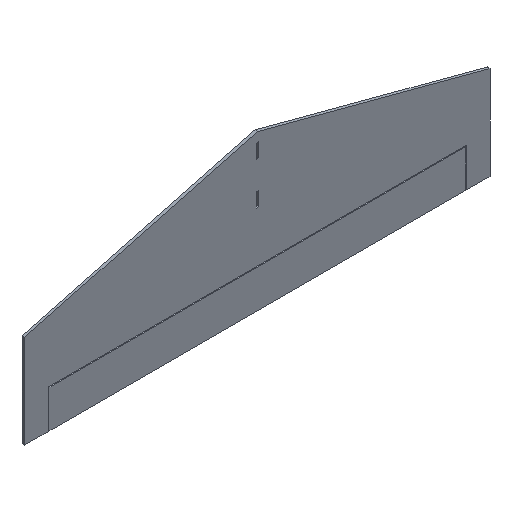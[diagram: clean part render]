
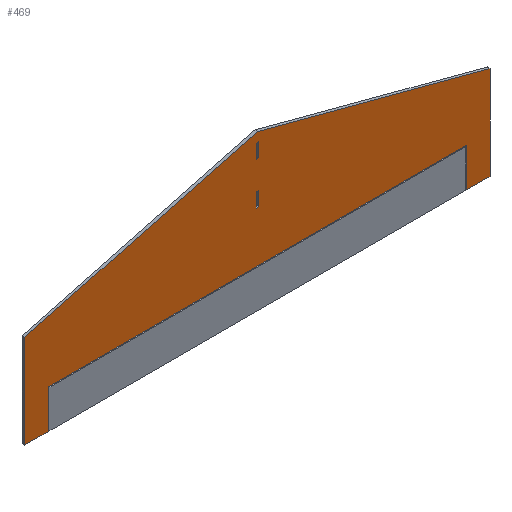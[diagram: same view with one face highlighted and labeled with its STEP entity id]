
A CAD part, isometric view. The second image highlights one B-rep face of the part: STEP entity #469.
In plain terms, the highlighted planar face has unit normal (0, -1, 0).
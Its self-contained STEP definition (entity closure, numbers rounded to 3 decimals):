
#19=FACE_BOUND('',#61,.T.);
#20=FACE_BOUND('',#62,.T.);
#33=FACE_OUTER_BOUND('',#60,.T.);
#60=EDGE_LOOP('',(#367,#368,#369,#370,#371,#372,#373,#374,#375));
#61=EDGE_LOOP('',(#376,#377,#378,#379));
#62=EDGE_LOOP('',(#380,#381,#382,#383));
#75=LINE('',#641,#138);
#79=LINE('',#649,#142);
#82=LINE('',#655,#145);
#85=LINE('',#660,#148);
#87=LINE('',#665,#150);
#91=LINE('',#673,#154);
#94=LINE('',#679,#157);
#97=LINE('',#684,#160);
#99=LINE('',#689,#162);
#103=LINE('',#697,#166);
#106=LINE('',#703,#169);
#115=LINE('',#721,#178);
#116=LINE('',#723,#179);
#117=LINE('',#725,#180);
#118=LINE('',#727,#181);
#119=LINE('',#729,#182);
#120=LINE('',#730,#183);
#138=VECTOR('',#526,10.);
#142=VECTOR('',#532,10.);
#145=VECTOR('',#537,10.);
#148=VECTOR('',#542,10.);
#150=VECTOR('',#546,10.);
#154=VECTOR('',#552,10.);
#157=VECTOR('',#557,10.);
#160=VECTOR('',#562,10.);
#162=VECTOR('',#566,10.);
#166=VECTOR('',#572,10.);
#169=VECTOR('',#577,10.);
#178=VECTOR('',#590,10.);
#179=VECTOR('',#591,10.);
#180=VECTOR('',#592,10.);
#181=VECTOR('',#593,10.);
#182=VECTOR('',#594,10.);
#183=VECTOR('',#595,10.);
#201=VERTEX_POINT('',#639);
#202=VERTEX_POINT('',#640);
#205=VERTEX_POINT('',#648);
#207=VERTEX_POINT('',#654);
#209=VERTEX_POINT('',#663);
#210=VERTEX_POINT('',#664);
#213=VERTEX_POINT('',#672);
#215=VERTEX_POINT('',#678);
#217=VERTEX_POINT('',#687);
#218=VERTEX_POINT('',#688);
#221=VERTEX_POINT('',#696);
#223=VERTEX_POINT('',#702);
#230=VERTEX_POINT('',#720);
#231=VERTEX_POINT('',#722);
#232=VERTEX_POINT('',#724);
#233=VERTEX_POINT('',#726);
#234=VERTEX_POINT('',#728);
#243=EDGE_CURVE('',#201,#202,#75,.T.);
#247=EDGE_CURVE('',#202,#205,#79,.T.);
#250=EDGE_CURVE('',#205,#207,#82,.T.);
#253=EDGE_CURVE('',#207,#201,#85,.T.);
#255=EDGE_CURVE('',#209,#210,#87,.T.);
#259=EDGE_CURVE('',#210,#213,#91,.T.);
#262=EDGE_CURVE('',#213,#215,#94,.T.);
#265=EDGE_CURVE('',#215,#209,#97,.T.);
#267=EDGE_CURVE('',#217,#218,#99,.T.);
#271=EDGE_CURVE('',#218,#221,#103,.T.);
#274=EDGE_CURVE('',#221,#223,#106,.T.);
#283=EDGE_CURVE('',#223,#230,#115,.T.);
#284=EDGE_CURVE('',#230,#231,#116,.T.);
#285=EDGE_CURVE('',#232,#231,#117,.T.);
#286=EDGE_CURVE('',#232,#233,#118,.T.);
#287=EDGE_CURVE('',#233,#234,#119,.T.);
#288=EDGE_CURVE('',#234,#217,#120,.T.);
#367=ORIENTED_EDGE('',*,*,#267,.T.);
#368=ORIENTED_EDGE('',*,*,#271,.T.);
#369=ORIENTED_EDGE('',*,*,#274,.T.);
#370=ORIENTED_EDGE('',*,*,#283,.T.);
#371=ORIENTED_EDGE('',*,*,#284,.T.);
#372=ORIENTED_EDGE('',*,*,#285,.F.);
#373=ORIENTED_EDGE('',*,*,#286,.T.);
#374=ORIENTED_EDGE('',*,*,#287,.T.);
#375=ORIENTED_EDGE('',*,*,#288,.T.);
#376=ORIENTED_EDGE('',*,*,#250,.T.);
#377=ORIENTED_EDGE('',*,*,#253,.T.);
#378=ORIENTED_EDGE('',*,*,#243,.T.);
#379=ORIENTED_EDGE('',*,*,#247,.T.);
#380=ORIENTED_EDGE('',*,*,#262,.T.);
#381=ORIENTED_EDGE('',*,*,#265,.T.);
#382=ORIENTED_EDGE('',*,*,#255,.T.);
#383=ORIENTED_EDGE('',*,*,#259,.T.);
#444=PLANE('',#509);
#469=ADVANCED_FACE('',(#33,#19,#20),#444,.F.);
#509=AXIS2_PLACEMENT_3D('',#719,#588,#589);
#526=DIRECTION('',(0.,0.,1.));
#532=DIRECTION('',(1.,0.,0.));
#537=DIRECTION('',(0.,0.,-1.));
#542=DIRECTION('',(-1.,0.,0.));
#546=DIRECTION('',(0.,0.,1.));
#552=DIRECTION('',(1.,0.,0.));
#557=DIRECTION('',(0.,0.,-1.));
#562=DIRECTION('',(-1.,0.,0.));
#566=DIRECTION('',(0.,0.,1.));
#572=DIRECTION('',(1.,0.,0.));
#577=DIRECTION('',(0.,0.,-1.));
#588=DIRECTION('center_axis',(0.,1.,0.));
#589=DIRECTION('ref_axis',(1.,0.,0.));
#590=DIRECTION('',(1.,0.,0.));
#591=DIRECTION('',(0.,0.,1.));
#592=DIRECTION('',(0.967,0.,-0.256));
#593=DIRECTION('',(-0.967,0.,-0.256));
#594=DIRECTION('',(0.,0.,-1.));
#595=DIRECTION('',(1.,0.,0.));
#639=CARTESIAN_POINT('',(-1.5,0.,-25.));
#640=CARTESIAN_POINT('',(-1.5,0.,-10.));
#641=CARTESIAN_POINT('',(-1.5,0.,-46.5));
#648=CARTESIAN_POINT('',(1.5,0.,-10.));
#649=CARTESIAN_POINT('',(0.75,0.,-10.));
#654=CARTESIAN_POINT('',(1.5,0.,-25.));
#655=CARTESIAN_POINT('',(1.5,0.,-54.));
#660=CARTESIAN_POINT('',(-0.75,0.,-25.));
#663=CARTESIAN_POINT('',(-1.5,0.,-70.));
#664=CARTESIAN_POINT('',(-1.5,0.,-55.));
#665=CARTESIAN_POINT('',(-1.5,0.,-69.));
#672=CARTESIAN_POINT('',(1.5,0.,-55.));
#673=CARTESIAN_POINT('',(0.75,0.,-55.));
#678=CARTESIAN_POINT('',(1.5,0.,-70.));
#679=CARTESIAN_POINT('',(1.5,0.,-76.5));
#684=CARTESIAN_POINT('',(-0.75,0.,-70.));
#687=CARTESIAN_POINT('',(-224.1,0.,-166.));
#688=CARTESIAN_POINT('',(-224.1,0.,-124.5));
#689=CARTESIAN_POINT('',(-224.1,0.,-103.75));
#696=CARTESIAN_POINT('',(224.1,0.,-124.5));
#697=CARTESIAN_POINT('',(112.05,0.,-124.5));
#702=CARTESIAN_POINT('',(224.1,0.,-166.));
#703=CARTESIAN_POINT('',(224.1,0.,-124.5));
#719=CARTESIAN_POINT('Origin',(0.,0.,-83.));
#720=CARTESIAN_POINT('',(249.,0.,-166.));
#721=CARTESIAN_POINT('',(-249.,0.,-166.));
#722=CARTESIAN_POINT('',(249.,0.,-66.));
#723=CARTESIAN_POINT('',(249.,0.,-166.));
#724=CARTESIAN_POINT('',(0.,0.,0.));
#725=CARTESIAN_POINT('',(0.,0.,0.));
#726=CARTESIAN_POINT('',(-249.,0.,-66.));
#727=CARTESIAN_POINT('',(0.,0.,0.));
#728=CARTESIAN_POINT('',(-249.,0.,-166.));
#729=CARTESIAN_POINT('',(-249.,0.,-66.));
#730=CARTESIAN_POINT('',(-249.,0.,-166.));
